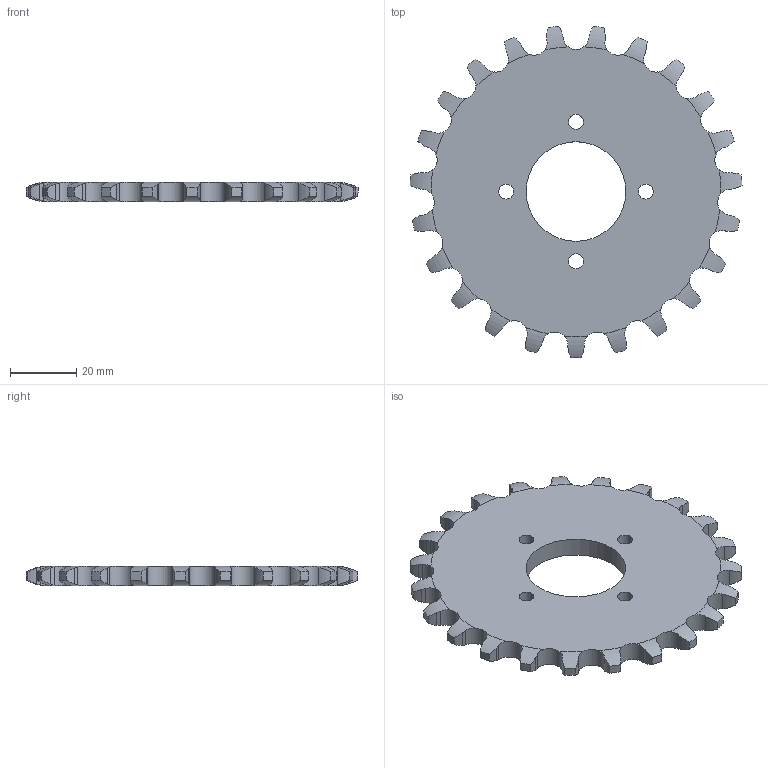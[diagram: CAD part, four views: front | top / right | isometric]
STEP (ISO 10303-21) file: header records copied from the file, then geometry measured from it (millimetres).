
FILE_DESCRIPTION (( 'STEP AP203' ), '1' );
FILE_NAME ('颇飘1.STEP', '2021-05-15T02:02:06', ( '' ), ( '' ), 'SwSTEP 2.0', 'SolidWorks 2018', '' );
FILE_SCHEMA (( 'CONFIG_CONTROL_DESIGN' ));
Length unit declared in the file: millimetre
Products named in the file (1): だお1
Bounding box: 99.94 x 99.73 x 5.8 mm (x, y, z)
Volume: 33339.6 mm3; surface area: 15038.3 mm2
Topology: 1 solids, 1 shells, 173 faces, 513 edges, 342 vertices
Faces by surface type: cylinder 125, torus 46, plane 2
Entity records: 6980 total; most frequent: CARTESIAN_POINT 2547, ORIENTED_EDGE 1026, DIRECTION 789, EDGE_CURVE 513, VERTEX_POINT 342, AXIS2_PLACEMENT_3D 332, B_SPLINE_CURVE_WITH_KNOTS 230, EDGE_LOOP 183
